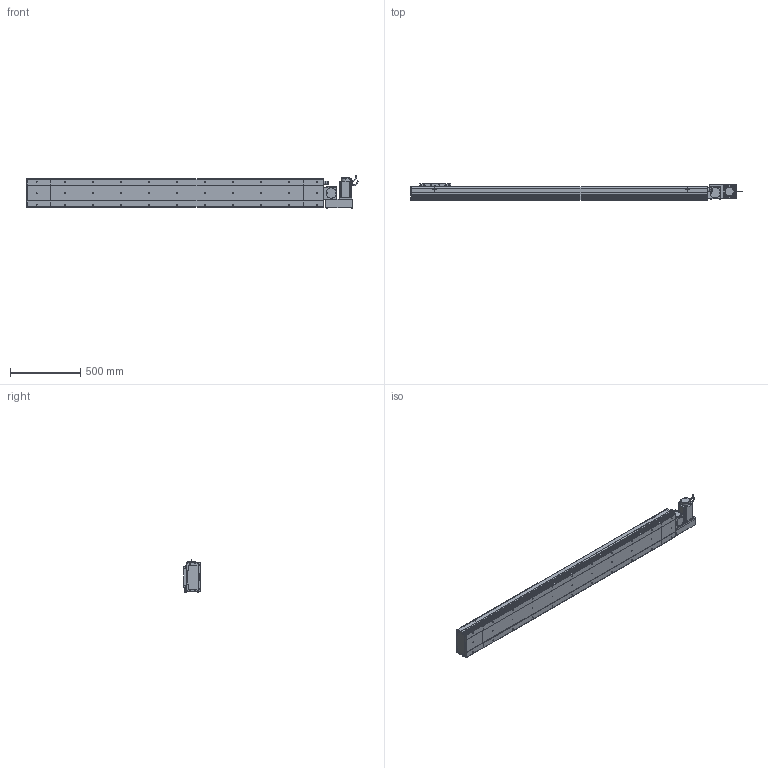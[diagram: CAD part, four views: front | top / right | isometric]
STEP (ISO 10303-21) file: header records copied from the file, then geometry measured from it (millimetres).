
FILE_DESCRIPTION (( 'STEP AP214' ), '1' );
FILE_NAME ('D20 CBH RH S1800.STEP', '2010-06-30T09:44:55', ( 'Conseil Régional Haute-Normandie' ), ( 'Conseil Régional Haute-Normandie' ), 'SwSTEP 2.0', 'SolidWorks 2010', '' );
FILE_SCHEMA (( 'AUTOMOTIVE_DESIGN' ));
Length unit declared in the file: millimetre
Products named in the file (31): Plaque de Bout Head D20 RH_Default; Couvercle RH_Default; Corp Tail D20 RH_Default; Head D20 RH_Default; D20 CBH RH S1800; Rondelle Cache D20 RH_Default; Plaque De Serrage D20 RH_Default; Chariot D20_Default; Plaque De Serrage D20_Default; Plaque de Bout Tail D20_Default; Couvercle_Default; vis M5 L15_Default; Support Chariot D20_Default; Corp Tail D20_Default; Tail D20_Default; Couvercle S1800_Default; Corp S1800_Default; Moteur motionking 90BLDC125A-640; Support moteur RH_Default; Corp D20 S1800_Default; vis M5 L47_Default; Glissiere_Default; Cache Support Moteur RH_Default; avant 90BLDC125A-640; vis M5 L30_Default; ecrou_Default; corps 90BLDC125A-640; Conecteur_Default; Conecteur2_Default; codeur 90BLDC125-640
Assembly tree (68 placements, depth 4):
  D20 CBH RH S1800
    Tail D20_Default
      vis M5 L15_Default  x6
      Plaque De Serrage D20_Default
      Plaque de Bout Tail D20_Default
      Couvercle_Default
      Corp Tail D20_Default
    Chariot D20_Default
      Glissiere_Default
      vis M5 L15_Default  x8
      Chariot D20_Default
      Support Chariot D20_Default
    Corp D20 S1800_Default
      Couvercle S1800_Default
      Corp S1800_Default
    Head D20 RH_Default
      Plaque De Serrage D20 RH_Default
      vis M5 L15_Default  x14
      Support moteur RH_Default
      vis M5 L30_Default  x4
      Rondelle Cache D20 RH_Default  x3
      vis M5 L47_Default  x4
      ecrou_Default  x4
      Plaque de Bout Head D20 RH_Default
      Cache Support Moteur RH_Default
      Moteur motionking 90BLDC125A-640
        Conecteur2_Default
        avant 90BLDC125A-640
        codeur 90BLDC125-640
        corps 90BLDC125A-640
        Conecteur_Default
      Corp Tail D20 RH_Default
      Couvercle RH_Default
Bounding box: 2365.45 x 119.5 x 229.7 mm (x, y, z)
Volume: 15661153.2 mm3; surface area: 3075915.3 mm2
Topology: 105 solids, 105 shells, 3808 faces, 9480 edges, 6154 vertices
Faces by surface type: plane 2125, bspline 806, cylinder 706, torus 95, cone 72, sphere 4
Entity records: 159182 total; most frequent: CARTESIAN_POINT 82274, ORIENTED_EDGE 15228, DIRECTION 11566, EDGE_CURVE 7614, VERTEX_POINT 5038, LINE 4930, VECTOR 4930, AXIS2_PLACEMENT_3D 3318
